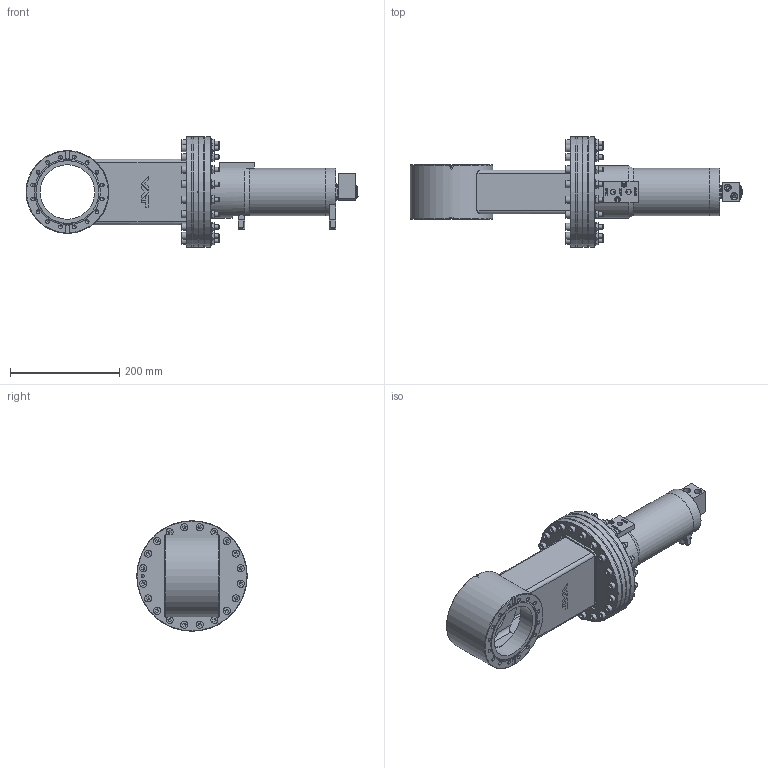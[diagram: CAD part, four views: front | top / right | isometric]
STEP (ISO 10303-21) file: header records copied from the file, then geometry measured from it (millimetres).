
FILE_DESCRIPTION(/* description */ (''),/* implementation_level */ '2;1');
FILE_NAME(/* name */ '1302895270_203',/* time_stamp */ '2009-05-01T09:14:26+02:00',/* author */ (''),/* organization */ (''),/* preprocessor_version */ 'ST-DEVELOPER v11',/* originating_system */ 'UGS - NX 5.0',/* authorisation */ '');
FILE_SCHEMA (('CONFIG_CONTROL_DESIGN'));
Length unit declared in the file: millimetre
Products named in the file (34): N-8406-013_3.2; N-8406-013_2.1; 73662-01.1; 202839_1.2; N-6121-039.1; N-6099-417.1; n-6013-463; n-7100-016_4; 81428-01; 374355; 203247.3; 203246.2; 77379-01.1; T-9001-055.1; N-6016-478.2; 334174; 83415-01.2; N-6200-419.1; 89254-01.1; 89253-01.1; 203259.1; 218200.1; 203254; 334183; n-6091-487.1; n-6131-414; n-6053-412.2; 356211.1; 81427-r1; 374442; N-8406-013_1_1.4; 78856-R1.3; 78855-r1.9; 401824
Assembly tree (154 placements, depth 5):
  401824
    78855-r1.9  x2
      N-6016-478.2
      T-9001-055.1
      78856-R1.3
        N-6099-417.1  x2
        N-6121-039.1
        202839_1.2
        73662-01.1
        N-8406-013_1_1.4
          N-8406-013_2.1
          202839_1.2
          N-8406-013_3.2
      77379-01.1
    356211.1  x39
    n-6053-412.2  x39
    n-6131-414  x39
    n-6091-487.1
    334183
    203254
    218200.1  x2
    203259.1
    89253-01.1
    89254-01.1
    N-6200-419.1
    83415-01.2
    334174
    374442
      203246.2
      203247.3
      374355
    81427-r1
      81428-01
      n-7100-016_4  x2
      n-6013-463  x2
Bounding box: 609.1 x 202.5 x 202.5 mm (x, y, z)
Volume: 3178700.6 mm3; surface area: 910189 mm2
Topology: 242 solids, 242 shells, 2813 faces, 6332 edges, 4079 vertices
Faces by surface type: plane 1627, cylinder 720, cone 351, bspline 48, extrusion 35, torus 28, sphere 2, revolution 2
Full cylindrical faces by diameter (mm): 1.4 x4, 1.5 x4, 2 x4, 2.115 x8, 2.3 x2, 2.5 x5, 2.733 x2, 3 x15, 3.5 x10, 4.2 x3, 5 x9, 5.4 x2, 5.5 x2, 5.8 x1, 6 x8, 6.475 x2, 6.6 x1, 6.66 x41, 6.7 x41, 6.8 x34, 7.008 x2, 8 x121, 8.4 x41, 8.5 x40, 9.125 x2, 9.2 x2, 9.728 x2, 11.6 x2, 12 x2, 12.25 x2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
Entity records: 39837 total; most frequent: CARTESIAN_POINT 8280, DIRECTION 5024, ORIENTED_EDGE 4342, EDGE_CURVE 2171, AXIS2_PLACEMENT_3D 2000, EDGE_LOOP 1780, VERTEX_POINT 1667, FACE_BOUND 1266
